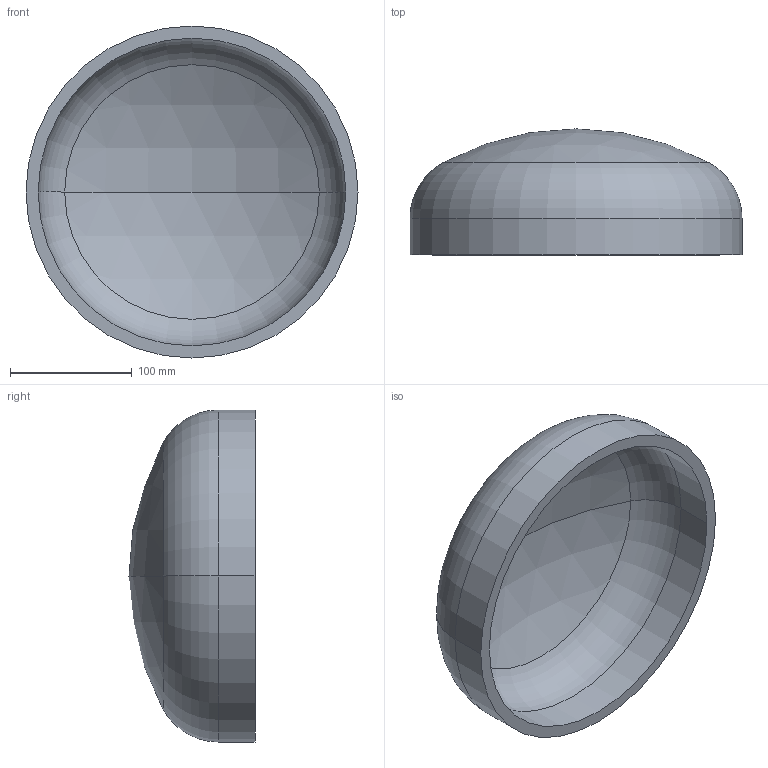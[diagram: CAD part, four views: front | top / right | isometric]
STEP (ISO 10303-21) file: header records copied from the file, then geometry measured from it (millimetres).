
FILE_DESCRIPTION (( 'STEP AP203' ), '1' );
FILE_NAME ('DIN 28013 Korbbogenform_-_Boden DIN 28013 - 273 x 30 - I - s=10.step', '2016-07-01T07:42:59', ( '' ), ( '' ), 'SwSTEP 2.0', 'SolidWorks 2013', '' );
FILE_SCHEMA (( 'CONFIG_CONTROL_DESIGN' ));
Length unit declared in the file: millimetre
Products named in the file (1): DIN 28013 Korbbogenform_-_Boden DIN 28013 - 273 x 30 - I - s=10
Bounding box: 273 x 103.61 x 273 mm (x, y, z)
Volume: 1020831.5 mm3; surface area: 212638.1 mm2
Topology: 1 solids, 1 shells, 13 faces, 24 edges, 14 vertices
Faces by surface type: torus 4, cylinder 4, sphere 4, plane 1
Entity records: 407 total; most frequent: DIRECTION 72, CARTESIAN_POINT 52, ORIENTED_EDGE 48, AXIS2_PLACEMENT_3D 34, EDGE_CURVE 24, CIRCLE 20, EDGE_LOOP 14, VERTEX_POINT 14
